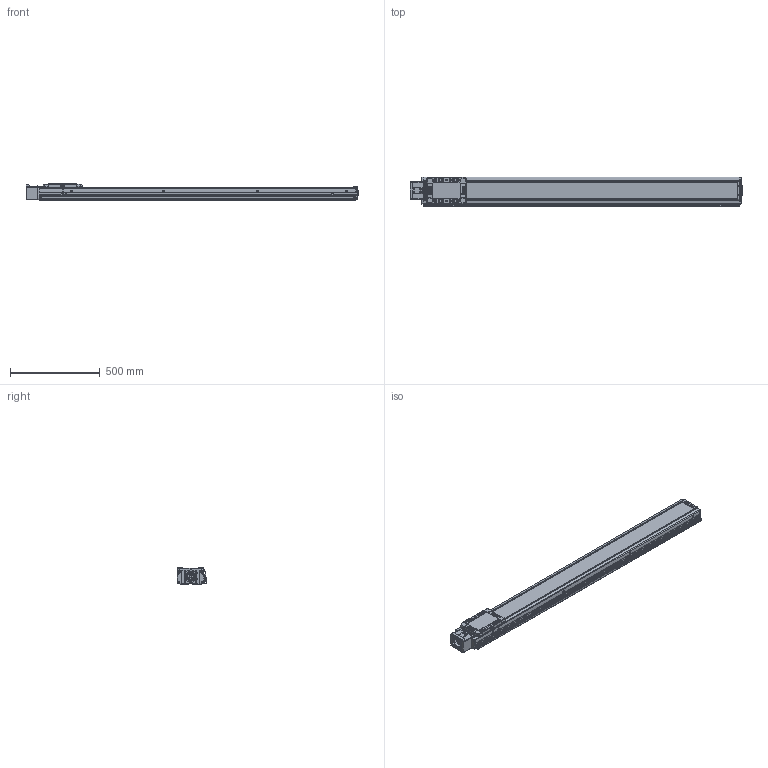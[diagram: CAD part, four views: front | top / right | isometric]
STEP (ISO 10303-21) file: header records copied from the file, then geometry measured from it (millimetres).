
FILE_DESCRIPTION(('STEP AP214'),'1');
FILE_NAME('Z:/Web/3D/SAN150/2013.04 (STP.)/SAN150ㅁㅁ-1500S+3SR.stp','2013-05-07T08:18:31',(' '),(' '),'Spatial InterOp 3D',' ',' ');
FILE_SCHEMA(('automotive_design'));
Length unit declared in the file: millimetre
Products named in the file (97): M3.0 x 6.0; SRL-16x17-360L; SGD-SAN150; EE-SX674; SBK-SX674-352; 스크루 : Round - M3.0 x 6.0; BHCS M4.0 x 10.0; SLBL-SAN150; SLCV-SAN150; FHCS M4.0 x 8.0; SFX-SAN150; RRCV-SAN150; FRBL-SAN150; Spacer; RN15; FRCV-SAN150; Screw 20; BASE-SAN150-000L ; SUS COVER; 스크루 : Round - M5.0 x 6.0; BHCS M3.0 x 6.0; SSFX-SAN65; CPLCV-SAN65; SDWA47C(2); SDWA47C(3-1); SDWA47C(3); SDWA47C(1); SDWA47C(4); SDWA47C(5); MTHZ-SAN150-80
Bounding box: 1849 x 166 x 90 mm (x, y, z)
Volume: 9665870.1 mm3; surface area: 1970240.9 mm2
Topology: 97 solids, 97 shells, 3644 faces, 9463 edges, 6101 vertices
Faces by surface type: plane 1629, cylinder 1401, cone 485, sphere 84, bspline 29, torus 16
Entity records: 147144 total; most frequent: CARTESIAN_POINT 24167, DIRECTION 20471, ORIENTED_EDGE 18622, EDGE_CURVE 9311, AXIS2_PLACEMENT_3D 7648, VERTEX_POINT 6101, LINE 5175, VECTOR 5175
